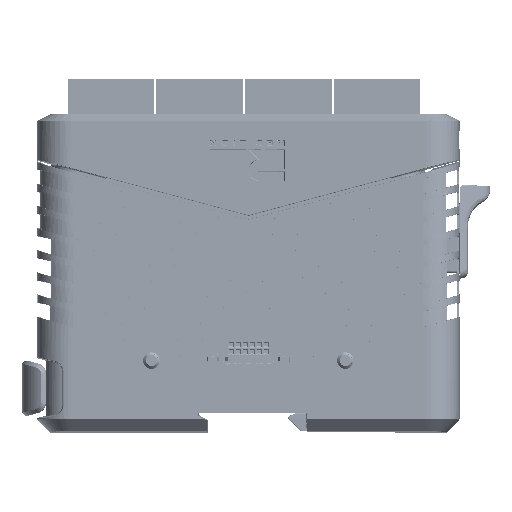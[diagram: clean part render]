
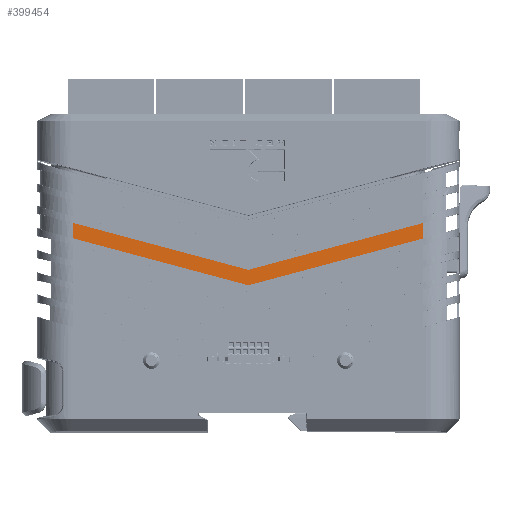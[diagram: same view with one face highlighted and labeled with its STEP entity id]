
A CAD part, left-side view. The second image highlights one B-rep face of the part: STEP entity #399454.
In plain terms, the highlighted planar face has unit normal (-1, 0, 0).
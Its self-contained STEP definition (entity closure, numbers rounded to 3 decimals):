
#3256 = LINE ( 'NONE', #218688, #142495 ) ;
#68277 = DIRECTION ( 'NONE',  ( 0., -0.966, -0.259 ) ) ;
#73839 = CARTESIAN_POINT ( 'NONE',  ( -17., 64.688, 68.669 ) ) ;
#74436 = VERTEX_POINT ( 'NONE', #141318 ) ;
#86304 = DIRECTION ( 'NONE',  ( 0., 0.966, 0.259 ) ) ;
#87648 = AXIS2_PLACEMENT_3D ( 'NONE', #201360, #416455, #631951 ) ;
#91070 = CARTESIAN_POINT ( 'NONE',  ( -17., -61.638, 53.529 ) ) ;
#107770 = VECTOR ( 'NONE', #630864, 1000. ) ;
#114920 = DIRECTION ( 'NONE',  ( 1., 0., 0. ) ) ;
#125302 = EDGE_CURVE ( 'NONE', #653085, #304803, #574458, .T. ) ;
#137421 = AXIS2_PLACEMENT_3D ( 'NONE', #410545, #626037, #142431 ) ;
#141318 = CARTESIAN_POINT ( 'NONE',  ( -17., 1.976, 51.865 ) ) ;
#142431 = DIRECTION ( 'NONE',  ( 0., 0., -1. ) ) ;
#142495 = VECTOR ( 'NONE', #433777, 1000. ) ;
#151830 = CARTESIAN_POINT ( 'NONE',  ( -17., 64.688, 53.529 ) ) ;
#181413 = CARTESIAN_POINT ( 'NONE',  ( -17., -61.638, 63.097 ) ) ;
#200264 = LINE ( 'NONE', #415355, #107770 ) ;
#201360 = CARTESIAN_POINT ( 'NONE',  ( -17., 1.53, 53.529 ) ) ;
#204662 = ORIENTED_EDGE ( 'NONE', *, *, #291420, .T. ) ;
#218688 = CARTESIAN_POINT ( 'NONE',  ( -17., 13.039, 48.662 ) ) ;
#218722 = ORIENTED_EDGE ( 'NONE', *, *, #341298, .T. ) ;
#224556 = EDGE_LOOP ( 'NONE', ( #365487, #582109, #626107, #204662, #629134, #536575, #563664, #218722 ) ) ;
#256018 = VECTOR ( 'NONE', #367009, 1000. ) ;
#291420 = EDGE_CURVE ( 'NONE', #530941, #74436, #631653, .T. ) ;
#304803 = VERTEX_POINT ( 'NONE', #591307 ) ;
#306413 = DIRECTION ( 'NONE',  ( 0., 0., 1. ) ) ;
#315179 = CARTESIAN_POINT ( 'NONE',  ( -17., 1.084, 51.865 ) ) ;
#327329 = AXIS2_PLACEMENT_3D ( 'NONE', #598356, #114920, #330203 ) ;
#330203 = DIRECTION ( 'NONE',  ( 0., 0., -1. ) ) ;
#336423 = LINE ( 'NONE', #551634, #452366 ) ;
#341298 = EDGE_CURVE ( 'NONE', #596368, #414796, #441593, .T. ) ;
#354496 = LINE ( 'NONE', #569731, #664500 ) ;
#365487 = ORIENTED_EDGE ( 'NONE', *, *, #371140, .T. ) ;
#367009 = DIRECTION ( 'NONE',  ( 0., 0., -1. ) ) ;
#371140 = EDGE_CURVE ( 'NONE', #414796, #653085, #200264, .T. ) ;
#374570 = CARTESIAN_POINT ( 'NONE',  ( -17., 2.119, 46.329 ) ) ;
#399454 = ADVANCED_FACE ( 'NONE', ( #469445 ), #684981, .F. ) ;
#410545 = CARTESIAN_POINT ( 'NONE',  ( -17., 1.53, 48.529 ) ) ;
#414796 = VERTEX_POINT ( 'NONE', #435270 ) ;
#415355 = CARTESIAN_POINT ( 'NONE',  ( -17., 11.645, 43.461 ) ) ;
#416189 = VERTEX_POINT ( 'NONE', #73839 ) ;
#416455 = DIRECTION ( 'NONE',  ( 1., 0., 0. ) ) ;
#433777 = DIRECTION ( 'NONE',  ( 0., 0.966, -0.259 ) ) ;
#435270 = CARTESIAN_POINT ( 'NONE',  ( -17., 0.941, 46.329 ) ) ;
#441593 = CIRCLE ( 'NONE', #137421, 2.278 ) ;
#452366 = VECTOR ( 'NONE', #68277, 1000. ) ;
#459723 = EDGE_CURVE ( 'NONE', #74436, #416189, #354496, .T. ) ;
#469445 = FACE_OUTER_BOUND ( 'NONE', #224556, .T. ) ;
#489557 = CARTESIAN_POINT ( 'NONE',  ( -17., 64.688, 63.094 ) ) ;
#492319 = EDGE_CURVE ( 'NONE', #304803, #530941, #3256, .T. ) ;
#501231 = VERTEX_POINT ( 'NONE', #489557 ) ;
#530941 = VERTEX_POINT ( 'NONE', #315179 ) ;
#536575 = ORIENTED_EDGE ( 'NONE', *, *, #678759, .T. ) ;
#551634 = CARTESIAN_POINT ( 'NONE',  ( -17., -11.44, 42.696 ) ) ;
#558144 = EDGE_CURVE ( 'NONE', #501231, #596368, #336423, .T. ) ;
#563664 = ORIENTED_EDGE ( 'NONE', *, *, #558144, .T. ) ;
#569731 = CARTESIAN_POINT ( 'NONE',  ( -17., -12.834, 47.897 ) ) ;
#574458 = LINE ( 'NONE', #91070, #588143 ) ;
#582109 = ORIENTED_EDGE ( 'NONE', *, *, #125302, .T. ) ;
#588143 = VECTOR ( 'NONE', #306413, 1000. ) ;
#591307 = CARTESIAN_POINT ( 'NONE',  ( -17., -61.638, 68.671 ) ) ;
#596368 = VERTEX_POINT ( 'NONE', #374570 ) ;
#598356 = CARTESIAN_POINT ( 'NONE',  ( -17., 1.53, 53.529 ) ) ;
#626037 = DIRECTION ( 'NONE',  ( -1., 0., 0. ) ) ;
#626107 = ORIENTED_EDGE ( 'NONE', *, *, #492319, .T. ) ;
#629134 = ORIENTED_EDGE ( 'NONE', *, *, #459723, .T. ) ;
#630864 = DIRECTION ( 'NONE',  ( 0., -0.966, 0.259 ) ) ;
#631653 = CIRCLE ( 'NONE', #327329, 1.722 ) ;
#631951 = DIRECTION ( 'NONE',  ( 0., 0., -1. ) ) ;
#635410 = LINE ( 'NONE', #151830, #256018 ) ;
#653085 = VERTEX_POINT ( 'NONE', #181413 ) ;
#664500 = VECTOR ( 'NONE', #86304, 1000. ) ;
#678759 = EDGE_CURVE ( 'NONE', #416189, #501231, #635410, .T. ) ;
#684981 = PLANE ( 'NONE',  #87648 ) ;
